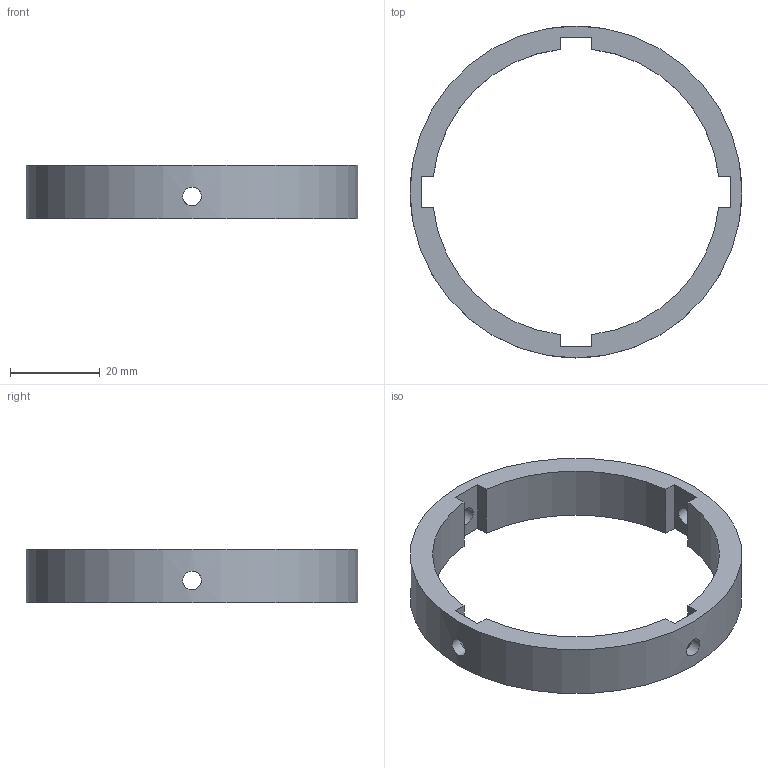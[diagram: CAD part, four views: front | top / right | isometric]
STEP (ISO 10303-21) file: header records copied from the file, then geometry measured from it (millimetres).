
FILE_DESCRIPTION(/* description */ ('STEP AP242','CAx-IF Rec.Pracs.---Representation and Presentation of Product Manufacturing Information (PMI)---4.0---2014-10-13','CAx-IF Rec.Pracs.---3D Tessellated Geometry---0.4---2014-09-14','2;1'),/* implementation_level */ '2;1');
FILE_NAME(/* name */ '27b - Harmonic skirt bearing housing - Harmonic skirt lock bearing',/* time_stamp */ '2024-12-03T19:58:33Z',/* author */ (''),/* organization */ (''),/* preprocessor_version */ 'ST-DEVELOPER v20',/* originating_system */ 'ONSHAPE BY PTC INC, 1.190',/* authorisation */ ' ');
FILE_SCHEMA (('AP242_MANAGED_MODEL_BASED_3D_ENGINEERING_MIM_LF { 1 0 10303 442 1 1 4 }'));
Length unit declared in the file: metre
Products named in the file (1): Harmonic skirt lock bearing
Bounding box: 74 x 74 x 12 mm (x, y, z)
Volume: 12007.9 mm3; surface area: 7503.9 mm2
Topology: 1 solids, 1 shells, 23 faces, 67 edges, 45 vertices
Faces by surface type: plane 14, cylinder 9
Full cylindrical faces by diameter (mm): 4.2 x4, 74 x1
Entity records: 780 total; most frequent: CARTESIAN_POINT 164, ORIENTED_EDGE 116, DIRECTION 116, EDGE_CURVE 58, VERTEX_POINT 42, LINE 40, VECTOR 40, EDGE_LOOP 38
